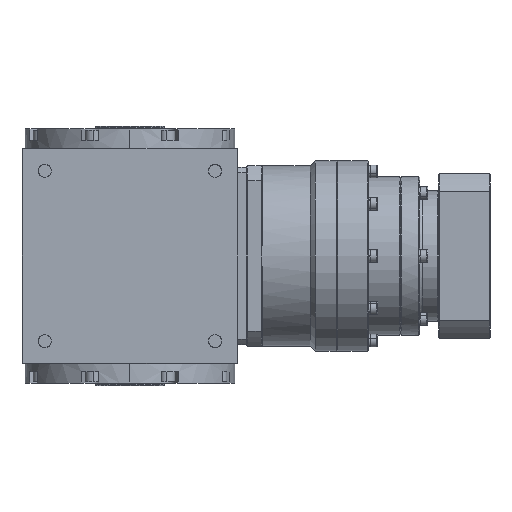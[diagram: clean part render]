
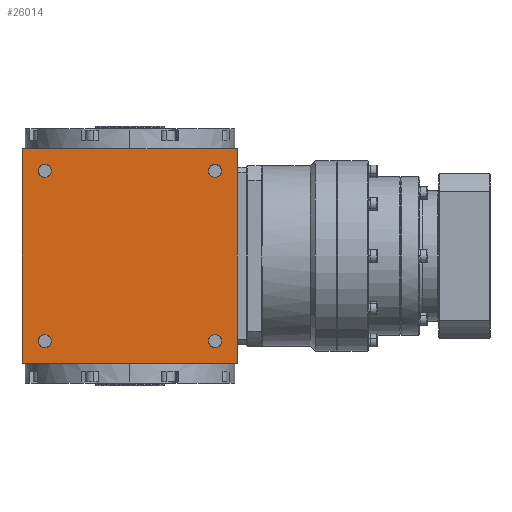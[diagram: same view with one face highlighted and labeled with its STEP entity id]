
A CAD part, left-side view. The second image highlights one B-rep face of the part: STEP entity #26014.
In plain terms, the highlighted planar face has unit normal (-1, 0, 0).
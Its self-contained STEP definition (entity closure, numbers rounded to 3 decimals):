
#677 = VERTEX_POINT ( 'NONE', #16478 ) ;
#835 = EDGE_CURVE ( 'NONE', #22353, #46649, #1208, .T. ) ;
#1208 = CIRCLE ( 'NONE', #7329, 5.1 ) ;
#1693 = EDGE_CURVE ( 'NONE', #9794, #19279, #14501, .T. ) ;
#1995 = DIRECTION ( 'NONE',  ( 0., -1., 0. ) ) ;
#2295 = ORIENTED_EDGE ( 'NONE', *, *, #835, .T. ) ;
#2533 = CIRCLE ( 'NONE', #20803, 5.1 ) ;
#2700 = CARTESIAN_POINT ( 'NONE',  ( -85., 85., -84.5 ) ) ;
#3807 = CARTESIAN_POINT ( 'NONE',  ( -85., 67., -72.1 ) ) ;
#3905 = AXIS2_PLACEMENT_3D ( 'NONE', #47115, #14110, #40396 ) ;
#4783 = VERTEX_POINT ( 'NONE', #13775 ) ;
#4925 = EDGE_LOOP ( 'NONE', ( #34760, #18927 ) ) ;
#5598 = DIRECTION ( 'NONE',  ( -1., 0., 0. ) ) ;
#5740 = CARTESIAN_POINT ( 'NONE',  ( -85., 85., 84.5 ) ) ;
#5980 = DIRECTION ( 'NONE',  ( 1., 0., 0. ) ) ;
#6456 = ORIENTED_EDGE ( 'NONE', *, *, #8431, .T. ) ;
#6632 = DIRECTION ( 'NONE',  ( 0., 0., 1. ) ) ;
#7329 = AXIS2_PLACEMENT_3D ( 'NONE', #26481, #36816, #11910 ) ;
#7481 = DIRECTION ( 'NONE',  ( 0., 0., 1. ) ) ;
#7731 = CIRCLE ( 'NONE', #19172, 5.1 ) ;
#8189 = VECTOR ( 'NONE', #9330, 1000. ) ;
#8431 = EDGE_CURVE ( 'NONE', #4783, #22736, #39738, .T. ) ;
#8650 = EDGE_CURVE ( 'NONE', #46261, #677, #45660, .T. ) ;
#9330 = DIRECTION ( 'NONE',  ( 0., 1., 0. ) ) ;
#9794 = VERTEX_POINT ( 'NONE', #44244 ) ;
#9951 = ORIENTED_EDGE ( 'NONE', *, *, #37274, .T. ) ;
#10023 = CIRCLE ( 'NONE', #3905, 5.1 ) ;
#10314 = DIRECTION ( 'NONE',  ( 0., 0., 1. ) ) ;
#10382 = ORIENTED_EDGE ( 'NONE', *, *, #31237, .T. ) ;
#10584 = CARTESIAN_POINT ( 'NONE',  ( -85., 84.5, -85. ) ) ;
#11601 = DIRECTION ( 'NONE',  ( 0., 0., 1. ) ) ;
#11910 = DIRECTION ( 'NONE',  ( 0., 0., 1. ) ) ;
#12069 = DIRECTION ( 'NONE',  ( 1., 0., 0. ) ) ;
#12518 = CARTESIAN_POINT ( 'NONE',  ( -85., -84.5, 84.5 ) ) ;
#13268 = EDGE_LOOP ( 'NONE', ( #46157, #2295 ) ) ;
#13705 = CARTESIAN_POINT ( 'NONE',  ( -85., -67., -67. ) ) ;
#13775 = CARTESIAN_POINT ( 'NONE',  ( -85., 84.5, -84.5 ) ) ;
#14110 = DIRECTION ( 'NONE',  ( 1., 0., 0. ) ) ;
#14501 = CIRCLE ( 'NONE', #22137, 5.1 ) ;
#14507 = EDGE_CURVE ( 'NONE', #20176, #40533, #27926, .T. ) ;
#15084 = LINE ( 'NONE', #10584, #19981 ) ;
#15117 = EDGE_CURVE ( 'NONE', #46649, #22353, #42501, .T. ) ;
#16478 = CARTESIAN_POINT ( 'NONE',  ( -85., 84.5, 84.5 ) ) ;
#16719 = DIRECTION ( 'NONE',  ( 0., 0., 1. ) ) ;
#17130 = CIRCLE ( 'NONE', #24739, 5.1 ) ;
#18805 = ORIENTED_EDGE ( 'NONE', *, *, #14507, .T. ) ;
#18927 = ORIENTED_EDGE ( 'NONE', *, *, #27653, .T. ) ;
#19172 = AXIS2_PLACEMENT_3D ( 'NONE', #36614, #28716, #40185 ) ;
#19279 = VERTEX_POINT ( 'NONE', #20593 ) ;
#19592 = AXIS2_PLACEMENT_3D ( 'NONE', #28863, #24339, #31543 ) ;
#19981 = VECTOR ( 'NONE', #36205, 1000. ) ;
#20176 = VERTEX_POINT ( 'NONE', #24970 ) ;
#20415 = ORIENTED_EDGE ( 'NONE', *, *, #33617, .T. ) ;
#20593 = CARTESIAN_POINT ( 'NONE',  ( -85., -67., -72.1 ) ) ;
#20676 = CARTESIAN_POINT ( 'NONE',  ( -85., 67., 72.1 ) ) ;
#20803 = AXIS2_PLACEMENT_3D ( 'NONE', #43764, #28930, #10314 ) ;
#22000 = EDGE_LOOP ( 'NONE', ( #20415, #23191, #46360, #6456 ) ) ;
#22137 = AXIS2_PLACEMENT_3D ( 'NONE', #38745, #5980, #16719 ) ;
#22353 = VERTEX_POINT ( 'NONE', #27561 ) ;
#22475 = EDGE_CURVE ( 'NONE', #677, #4783, #15084, .T. ) ;
#22659 = VECTOR ( 'NONE', #39511, 1000. ) ;
#22736 = VERTEX_POINT ( 'NONE', #31604 ) ;
#22786 = FACE_BOUND ( 'NONE', #23012, .T. ) ;
#23012 = EDGE_LOOP ( 'NONE', ( #18805, #30972 ) ) ;
#23094 = VECTOR ( 'NONE', #6632, 1000. ) ;
#23191 = ORIENTED_EDGE ( 'NONE', *, *, #8650, .T. ) ;
#24339 = DIRECTION ( 'NONE',  ( 1., 0., 0. ) ) ;
#24739 = AXIS2_PLACEMENT_3D ( 'NONE', #13705, #40237, #7481 ) ;
#24970 = CARTESIAN_POINT ( 'NONE',  ( -85., 67., -61.9 ) ) ;
#25611 = CARTESIAN_POINT ( 'NONE',  ( -85., -67., 72.1 ) ) ;
#26014 = ADVANCED_FACE ( 'NONE', ( #34551, #30933, #22786, #41466, #37880 ), #30215, .T. ) ;
#26481 = CARTESIAN_POINT ( 'NONE',  ( -85., -67., 67. ) ) ;
#27091 = CARTESIAN_POINT ( 'NONE',  ( -85., 85., -85. ) ) ;
#27173 = AXIS2_PLACEMENT_3D ( 'NONE', #44353, #12069, #11601 ) ;
#27561 = CARTESIAN_POINT ( 'NONE',  ( -85., -67., 61.9 ) ) ;
#27653 = EDGE_CURVE ( 'NONE', #19279, #9794, #17130, .T. ) ;
#27926 = CIRCLE ( 'NONE', #27173, 5.1 ) ;
#28543 = AXIS2_PLACEMENT_3D ( 'NONE', #27091, #5598, #1995 ) ;
#28716 = DIRECTION ( 'NONE',  ( 1., 0., 0. ) ) ;
#28863 = CARTESIAN_POINT ( 'NONE',  ( -85., -67., 67. ) ) ;
#28930 = DIRECTION ( 'NONE',  ( 1., 0., 0. ) ) ;
#30215 = PLANE ( 'NONE',  #28543 ) ;
#30933 = FACE_BOUND ( 'NONE', #13268, .T. ) ;
#30972 = ORIENTED_EDGE ( 'NONE', *, *, #43246, .T. ) ;
#31237 = EDGE_CURVE ( 'NONE', #47291, #41475, #7731, .T. ) ;
#31526 = LINE ( 'NONE', #42734, #23094 ) ;
#31543 = DIRECTION ( 'NONE',  ( 0., 0., 1. ) ) ;
#31604 = CARTESIAN_POINT ( 'NONE',  ( -85., -84.5, -84.5 ) ) ;
#33617 = EDGE_CURVE ( 'NONE', #22736, #46261, #31526, .T. ) ;
#34289 = CARTESIAN_POINT ( 'NONE',  ( -85., 67., 61.9 ) ) ;
#34551 = FACE_OUTER_BOUND ( 'NONE', #22000, .T. ) ;
#34760 = ORIENTED_EDGE ( 'NONE', *, *, #1693, .T. ) ;
#36205 = DIRECTION ( 'NONE',  ( 0., 0., -1. ) ) ;
#36614 = CARTESIAN_POINT ( 'NONE',  ( -85., 67., 67. ) ) ;
#36816 = DIRECTION ( 'NONE',  ( 1., 0., 0. ) ) ;
#37274 = EDGE_CURVE ( 'NONE', #41475, #47291, #2533, .T. ) ;
#37880 = FACE_BOUND ( 'NONE', #38930, .T. ) ;
#38745 = CARTESIAN_POINT ( 'NONE',  ( -85., -67., -67. ) ) ;
#38930 = EDGE_LOOP ( 'NONE', ( #10382, #9951 ) ) ;
#39511 = DIRECTION ( 'NONE',  ( 0., -1., 0. ) ) ;
#39738 = LINE ( 'NONE', #2700, #22659 ) ;
#40185 = DIRECTION ( 'NONE',  ( 0., 0., 1. ) ) ;
#40237 = DIRECTION ( 'NONE',  ( 1., 0., 0. ) ) ;
#40396 = DIRECTION ( 'NONE',  ( 0., 0., 1. ) ) ;
#40533 = VERTEX_POINT ( 'NONE', #3807 ) ;
#41466 = FACE_BOUND ( 'NONE', #4925, .T. ) ;
#41475 = VERTEX_POINT ( 'NONE', #34289 ) ;
#42501 = CIRCLE ( 'NONE', #19592, 5.1 ) ;
#42734 = CARTESIAN_POINT ( 'NONE',  ( -85., -84.5, -85. ) ) ;
#43246 = EDGE_CURVE ( 'NONE', #40533, #20176, #10023, .T. ) ;
#43764 = CARTESIAN_POINT ( 'NONE',  ( -85., 67., 67. ) ) ;
#44244 = CARTESIAN_POINT ( 'NONE',  ( -85., -67., -61.9 ) ) ;
#44353 = CARTESIAN_POINT ( 'NONE',  ( -85., 67., -67. ) ) ;
#45660 = LINE ( 'NONE', #5740, #8189 ) ;
#46157 = ORIENTED_EDGE ( 'NONE', *, *, #15117, .T. ) ;
#46261 = VERTEX_POINT ( 'NONE', #12518 ) ;
#46360 = ORIENTED_EDGE ( 'NONE', *, *, #22475, .T. ) ;
#46649 = VERTEX_POINT ( 'NONE', #25611 ) ;
#47115 = CARTESIAN_POINT ( 'NONE',  ( -85., 67., -67. ) ) ;
#47291 = VERTEX_POINT ( 'NONE', #20676 ) ;
